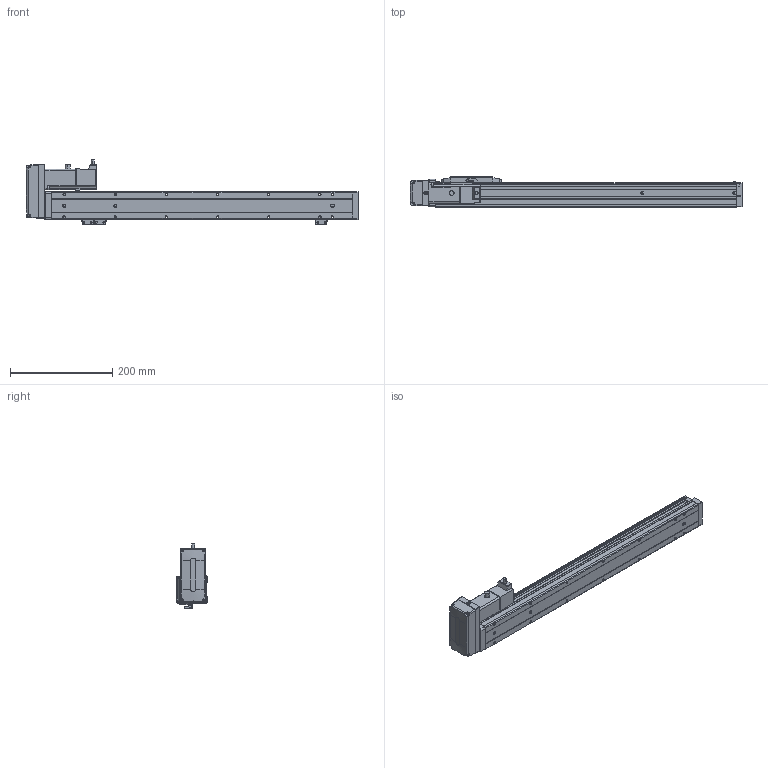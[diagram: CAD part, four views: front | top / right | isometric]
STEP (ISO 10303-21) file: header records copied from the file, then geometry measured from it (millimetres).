
FILE_DESCRIPTION (( 'STEP AP203' ), '1' );
FILE_NAME ('CTH5-L10-S450-BL-C10(¼ò).STEP', '2023-02-04T02:15:34', ( '' ), ( '' ), 'SwSTEP 2.0', 'SolidWorks 2018', '' );
FILE_SCHEMA (( 'CONFIG_CONTROL_DESIGN' ));
Length unit declared in the file: millimetre
Products named in the file (21): T10-p1; PM-Y45; 100W萇儂; CTH嫖萇羲壽假蚾啣; CTH5覜茼え; CTH5耜晚蹟隊-1; CTH5-L10-S450-BL-C10(潠); 嫖萇羲壽郪磁1; CTH5耜蚾欶; CTH5賑怢-2; hex nuts, style 1-grades ab gb_GB_FASTENER_NUT_SNAB1 M3-N; CTH5-BL-T10_body5; 内六角圆柱头螺钉M3-2; M3｡｣; CTH5菁釱-L590; CTH100W假蚾啣; CTH5ヶ耜啣(潠); CTH5綴耜啣; CTH5耜蚾蟀諉啣(潠); CTH5耜晚蹟隊; 葩璃 蚾饜极13^CTH8-L10-S50-BM-C40(潠)1
Assembly tree (35 placements, depth 3):
  CTH5-L10-S450-BL-C10(潠)
    CTH5綴耜啣
    CTH5賑怢-2
    CTH5ヶ耜啣(潠)
    CTH5菁釱-L590
    CTH5耜晚蹟隊  x2
    CTH5覜茼え
    CTH5耜晚蹟隊-1  x3
    CTH5耜蚾蟀諉啣(潠)
    CTH5耜蚾欶
      CTH5-BL-T10_body5
    100W萇儂
      T10-p1
    CTH100W假蚾啣
    葩璃 蚾饜极13^CTH8-L10-S50-BM-C40(潠)1  x2
      CTH嫖萇羲壽假蚾啣
      PM-Y45
      内六角圆柱头螺钉M3-2
      M3｡｣
      hex nuts, style 1-grades ab gb_GB_FASTENER_NUT_SNAB1 M3-N
    嫖萇羲壽郪磁1
      CTH嫖萇羲壽假蚾啣
      PM-Y45
      M3｡｣  x2
      内六角圆柱头螺钉M3-2  x2
      hex nuts, style 1-grades ab gb_GB_FASTENER_NUT_SNAB1 M3-N  x2
Bounding box: 650 x 60 x 126.31 mm (x, y, z)
Volume: 1661589.4 mm3; surface area: 244967.6 mm2
Topology: 38 solids, 38 shells, 1596 faces, 4009 edges, 2588 vertices
Faces by surface type: plane 881, cylinder 468, cone 191, torus 38, bspline 18
Entity records: 37326 total; most frequent: CARTESIAN_POINT 6937, DIRECTION 5911, ORIENTED_EDGE 5690, EDGE_CURVE 2845, AXIS2_PLACEMENT_3D 2033, VECTOR 1845, LINE 1845, VERTEX_POINT 1832
